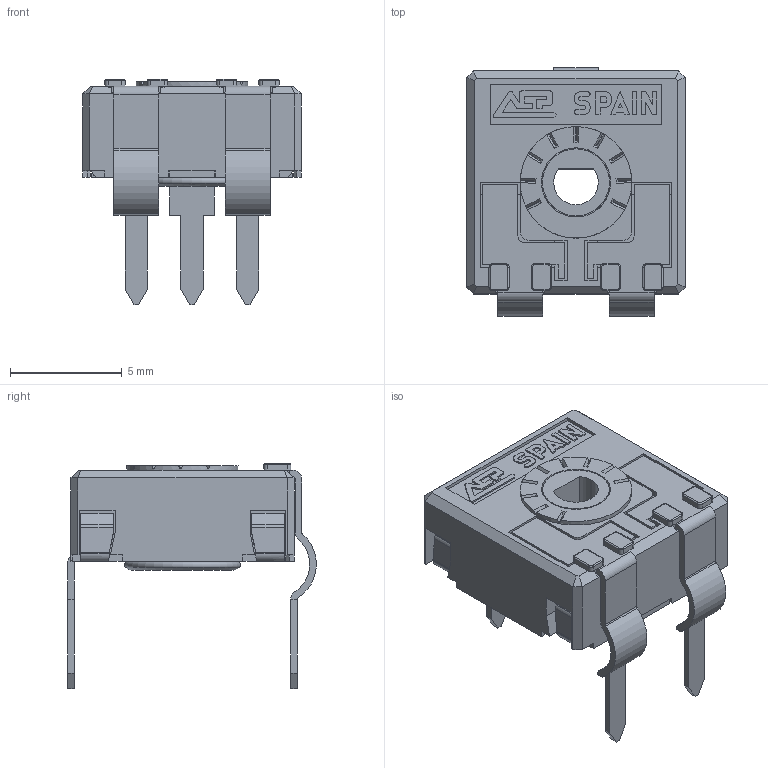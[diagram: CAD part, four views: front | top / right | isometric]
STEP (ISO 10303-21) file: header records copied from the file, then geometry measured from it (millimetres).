
FILE_DESCRIPTION(/* description */ (''),/* implementation_level */ '2;1');
FILE_NAME(/* name */ 'C:\Users\CEM\Desktop\ENVIAR\TRANSICION 3D CATALOGOS\RS9DVR10.stp',/* time_stamp */ '2025-11-26T17:38:01+01:00',/* author */ ('CEM'),/* organization */ (''),/* preprocessor_version */ 'ST-DEVELOPER v16.13',/* originating_system */ 'Autodesk Inventor 2018',/* authorisation */ '');
FILE_SCHEMA (('AUTOMOTIVE_DESIGN { 1 0 10303 214 3 1 1 }'));
Length unit declared in the file: millimetre
Products named in the file (1): RS9DVR10
Bounding box: 9.8 x 11.15 x 10.1 mm (x, y, z)
Volume: 248.6 mm3; surface area: 865.7 mm2
Topology: 2 solids, 2 shells, 604 faces, 1703 edges, 1088 vertices
Faces by surface type: plane 470, cylinder 98, torus 19, cone 17
Full cylindrical faces by diameter (mm): 3 x1, 3.1 x1, 4 x1, 4.8 x1, 5 x1
Entity records: 19415 total; most frequent: CARTESIAN_POINT 3435, ORIENTED_EDGE 3380, DIRECTION 3165, EDGE_CURVE 1688, LINE 1365, VECTOR 1365, VERTEX_POINT 1084, AXIS2_PLACEMENT_3D 900
